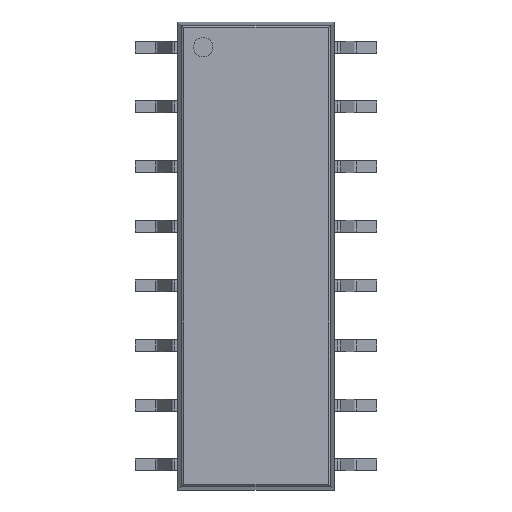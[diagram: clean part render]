
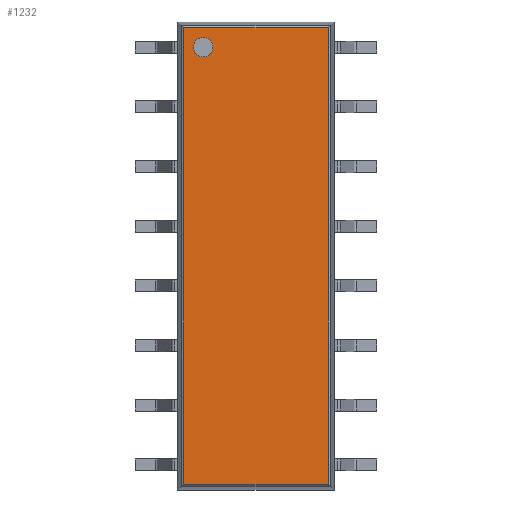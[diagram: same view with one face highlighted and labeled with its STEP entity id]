
A CAD part, top view. The second image highlights one B-rep face of the part: STEP entity #1232.
In plain terms, the highlighted planar face has unit normal (0, 0, 1).
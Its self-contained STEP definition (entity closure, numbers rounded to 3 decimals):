
#829 = CYLINDRICAL_SURFACE('',#830,0.08);
#830 = AXIS2_PLACEMENT_3D('',#831,#832,#833);
#831 = CARTESIAN_POINT('',(-3.082,-9.794,4.62));
#832 = DIRECTION('',(0.,1.,0.));
#833 = DIRECTION('',(-0.997,0.,0.073));
#971 = CYLINDRICAL_SURFACE('',#972,0.08);
#972 = AXIS2_PLACEMENT_3D('',#973,#974,#975);
#973 = CARTESIAN_POINT('',(-3.156,-9.719,4.62));
#974 = DIRECTION('',(1.,0.,0.));
#975 = DIRECTION('',(0.,-0.997,0.073));
#987 = VERTEX_POINT('',#988);
#988 = CARTESIAN_POINT('',(-3.082,-9.719,4.7));
#1022 = EDGE_CURVE('',#987,#1023,#1025,.T.);
#1023 = VERTEX_POINT('',#1024);
#1024 = CARTESIAN_POINT('',(-3.082,9.719,4.7));
#1025 = SURFACE_CURVE('',#1026,(#1030,#1037),.PCURVE_S1.);
#1026 = LINE('',#1027,#1028);
#1027 = CARTESIAN_POINT('',(-3.082,-9.794,4.7));
#1028 = VECTOR('',#1029,1.);
#1029 = DIRECTION('',(0.,1.,0.));
#1030 = PCURVE('',#829,#1031);
#1031 = DEFINITIONAL_REPRESENTATION('',(#1032),#1036);
#1032 = LINE('',#1033,#1034);
#1033 = CARTESIAN_POINT('',(1.498,0.));
#1034 = VECTOR('',#1035,1.);
#1035 = DIRECTION('',(0.,1.));
#1036 = ( GEOMETRIC_REPRESENTATION_CONTEXT(2) 
PARAMETRIC_REPRESENTATION_CONTEXT() REPRESENTATION_CONTEXT('2D SPACE',''
  ) );
#1037 = PCURVE('',#1038,#1043);
#1038 = PLANE('',#1039);
#1039 = AXIS2_PLACEMENT_3D('',#1040,#1041,#1042);
#1040 = CARTESIAN_POINT('',(-3.323,-9.96,4.7));
#1041 = DIRECTION('',(0.,0.,1.));
#1042 = DIRECTION('',(1.,0.,0.));
#1043 = DEFINITIONAL_REPRESENTATION('',(#1044),#1048);
#1044 = LINE('',#1045,#1046);
#1045 = CARTESIAN_POINT('',(0.241,0.166));
#1046 = VECTOR('',#1047,1.);
#1047 = DIRECTION('',(0.,1.));
#1048 = ( GEOMETRIC_REPRESENTATION_CONTEXT(2) 
PARAMETRIC_REPRESENTATION_CONTEXT() REPRESENTATION_CONTEXT('2D SPACE',''
  ) );
#1071 = CYLINDRICAL_SURFACE('',#1072,0.08);
#1072 = AXIS2_PLACEMENT_3D('',#1073,#1074,#1075);
#1073 = CARTESIAN_POINT('',(-3.156,9.719,4.62));
#1074 = DIRECTION('',(1.,0.,0.));
#1075 = DIRECTION('',(0.,0.,1.));
#1159 = CYLINDRICAL_SURFACE('',#1160,0.08);
#1160 = AXIS2_PLACEMENT_3D('',#1161,#1162,#1163);
#1161 = CARTESIAN_POINT('',(3.082,-9.794,4.62));
#1162 = DIRECTION('',(0.,1.,0.));
#1163 = DIRECTION('',(0.,0.,1.));
#1175 = EDGE_CURVE('',#987,#1176,#1178,.T.);
#1176 = VERTEX_POINT('',#1177);
#1177 = CARTESIAN_POINT('',(3.082,-9.719,4.7));
#1178 = SURFACE_CURVE('',#1179,(#1183,#1190),.PCURVE_S1.);
#1179 = LINE('',#1180,#1181);
#1180 = CARTESIAN_POINT('',(-3.156,-9.719,4.7));
#1181 = VECTOR('',#1182,1.);
#1182 = DIRECTION('',(1.,0.,0.));
#1183 = PCURVE('',#971,#1184);
#1184 = DEFINITIONAL_REPRESENTATION('',(#1185),#1189);
#1185 = LINE('',#1186,#1187);
#1186 = CARTESIAN_POINT('',(-1.498,0.));
#1187 = VECTOR('',#1188,1.);
#1188 = DIRECTION('',(-0.,1.));
#1189 = ( GEOMETRIC_REPRESENTATION_CONTEXT(2) 
PARAMETRIC_REPRESENTATION_CONTEXT() REPRESENTATION_CONTEXT('2D SPACE',''
  ) );
#1190 = PCURVE('',#1038,#1191);
#1191 = DEFINITIONAL_REPRESENTATION('',(#1192),#1196);
#1192 = LINE('',#1193,#1194);
#1193 = CARTESIAN_POINT('',(0.166,0.241));
#1194 = VECTOR('',#1195,1.);
#1195 = DIRECTION('',(1.,0.));
#1196 = ( GEOMETRIC_REPRESENTATION_CONTEXT(2) 
PARAMETRIC_REPRESENTATION_CONTEXT() REPRESENTATION_CONTEXT('2D SPACE',''
  ) );
#1232 = ADVANCED_FACE('',(#1233,#1281),#1038,.T.);
#1233 = FACE_BOUND('',#1234,.T.);
#1234 = EDGE_LOOP('',(#1235,#1236,#1237,#1260));
#1235 = ORIENTED_EDGE('',*,*,#1022,.F.);
#1236 = ORIENTED_EDGE('',*,*,#1175,.T.);
#1237 = ORIENTED_EDGE('',*,*,#1238,.T.);
#1238 = EDGE_CURVE('',#1176,#1239,#1241,.T.);
#1239 = VERTEX_POINT('',#1240);
#1240 = CARTESIAN_POINT('',(3.082,9.719,4.7));
#1241 = SURFACE_CURVE('',#1242,(#1246,#1253),.PCURVE_S1.);
#1242 = LINE('',#1243,#1244);
#1243 = CARTESIAN_POINT('',(3.082,-9.794,4.7));
#1244 = VECTOR('',#1245,1.);
#1245 = DIRECTION('',(0.,1.,0.));
#1246 = PCURVE('',#1038,#1247);
#1247 = DEFINITIONAL_REPRESENTATION('',(#1248),#1252);
#1248 = LINE('',#1249,#1250);
#1249 = CARTESIAN_POINT('',(6.404,0.166));
#1250 = VECTOR('',#1251,1.);
#1251 = DIRECTION('',(0.,1.));
#1252 = ( GEOMETRIC_REPRESENTATION_CONTEXT(2) 
PARAMETRIC_REPRESENTATION_CONTEXT() REPRESENTATION_CONTEXT('2D SPACE',''
  ) );
#1253 = PCURVE('',#1159,#1254);
#1254 = DEFINITIONAL_REPRESENTATION('',(#1255),#1259);
#1255 = LINE('',#1256,#1257);
#1256 = CARTESIAN_POINT('',(0.,0.));
#1257 = VECTOR('',#1258,1.);
#1258 = DIRECTION('',(0.,1.));
#1259 = ( GEOMETRIC_REPRESENTATION_CONTEXT(2) 
PARAMETRIC_REPRESENTATION_CONTEXT() REPRESENTATION_CONTEXT('2D SPACE',''
  ) );
#1260 = ORIENTED_EDGE('',*,*,#1261,.F.);
#1261 = EDGE_CURVE('',#1023,#1239,#1262,.T.);
#1262 = SURFACE_CURVE('',#1263,(#1267,#1274),.PCURVE_S1.);
#1263 = LINE('',#1264,#1265);
#1264 = CARTESIAN_POINT('',(-3.156,9.719,4.7));
#1265 = VECTOR('',#1266,1.);
#1266 = DIRECTION('',(1.,0.,0.));
#1267 = PCURVE('',#1038,#1268);
#1268 = DEFINITIONAL_REPRESENTATION('',(#1269),#1273);
#1269 = LINE('',#1270,#1271);
#1270 = CARTESIAN_POINT('',(0.166,19.679));
#1271 = VECTOR('',#1272,1.);
#1272 = DIRECTION('',(1.,0.));
#1273 = ( GEOMETRIC_REPRESENTATION_CONTEXT(2) 
PARAMETRIC_REPRESENTATION_CONTEXT() REPRESENTATION_CONTEXT('2D SPACE',''
  ) );
#1274 = PCURVE('',#1071,#1275);
#1275 = DEFINITIONAL_REPRESENTATION('',(#1276),#1280);
#1276 = LINE('',#1277,#1278);
#1277 = CARTESIAN_POINT('',(-0.,0.));
#1278 = VECTOR('',#1279,1.);
#1279 = DIRECTION('',(-0.,1.));
#1280 = ( GEOMETRIC_REPRESENTATION_CONTEXT(2) 
PARAMETRIC_REPRESENTATION_CONTEXT() REPRESENTATION_CONTEXT('2D SPACE',''
  ) );
#1281 = FACE_BOUND('',#1282,.T.);
#1282 = EDGE_LOOP('',(#1283));
#1283 = ORIENTED_EDGE('',*,*,#1284,.F.);
#1284 = EDGE_CURVE('',#1285,#1285,#1287,.T.);
#1285 = VERTEX_POINT('',#1286);
#1286 = CARTESIAN_POINT('',(-1.83,8.883,4.7));
#1287 = SURFACE_CURVE('',#1288,(#1293,#1300),.PCURVE_S1.);
#1288 = CIRCLE('',#1289,0.415);
#1289 = AXIS2_PLACEMENT_3D('',#1290,#1291,#1292);
#1290 = CARTESIAN_POINT('',(-2.246,8.883,4.7));
#1291 = DIRECTION('',(0.,0.,1.));
#1292 = DIRECTION('',(1.,0.,0.));
#1293 = PCURVE('',#1038,#1294);
#1294 = DEFINITIONAL_REPRESENTATION('',(#1295),#1299);
#1295 = CIRCLE('',#1296,0.415);
#1296 = AXIS2_PLACEMENT_2D('',#1297,#1298);
#1297 = CARTESIAN_POINT('',(1.077,18.843));
#1298 = DIRECTION('',(1.,0.));
#1299 = ( GEOMETRIC_REPRESENTATION_CONTEXT(2) 
PARAMETRIC_REPRESENTATION_CONTEXT() REPRESENTATION_CONTEXT('2D SPACE',''
  ) );
#1300 = PCURVE('',#1301,#1306);
#1301 = CYLINDRICAL_SURFACE('',#1302,0.415);
#1302 = AXIS2_PLACEMENT_3D('',#1303,#1304,#1305);
#1303 = CARTESIAN_POINT('',(-2.246,8.883,4.23));
#1304 = DIRECTION('',(0.,0.,1.));
#1305 = DIRECTION('',(1.,0.,0.));
#1306 = DEFINITIONAL_REPRESENTATION('',(#1307),#1310);
#1307 = B_SPLINE_CURVE_WITH_KNOTS('',1,(#1308,#1309),.UNSPECIFIED.,.F.,
  .F.,(2,2),(0.,6.283),.PIECEWISE_BEZIER_KNOTS.);
#1308 = CARTESIAN_POINT('',(0.,0.47));
#1309 = CARTESIAN_POINT('',(6.283,0.47));
#1310 = ( GEOMETRIC_REPRESENTATION_CONTEXT(2) 
PARAMETRIC_REPRESENTATION_CONTEXT() REPRESENTATION_CONTEXT('2D SPACE',''
  ) );
